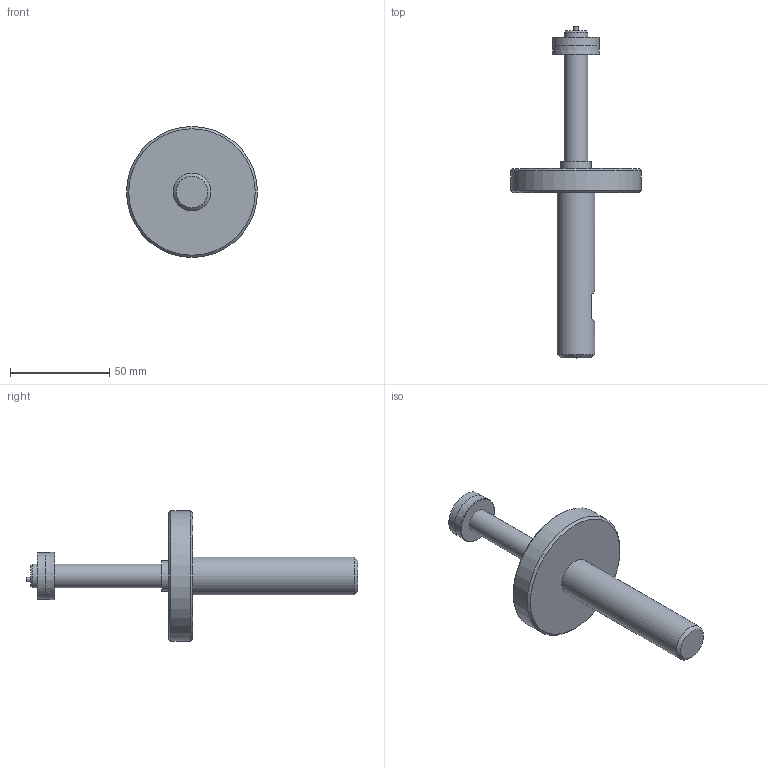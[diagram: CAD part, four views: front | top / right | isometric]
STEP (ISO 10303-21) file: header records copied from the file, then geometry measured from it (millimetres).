
FILE_DESCRIPTION (( 'STEP AP203' ), '1' );
FILE_NAME ('AF47-SIMPLE - AF47-12.00-24.00M.step', '2025-01-21T15:34:10', ( '' ), ( '' ), 'SwSTEP 2.0', 'SolidWorks 2024', '' );
FILE_SCHEMA (( 'CONFIG_CONTROL_DESIGN' ));
Length unit declared in the file: inch
Products named in the file (1): AF47-SIMPLE - AF47-12.00-24.00M
Bounding box: 66.04 x 167.39 x 66.04 mm (x, y, z)
Volume: 75861.5 mm3; surface area: 17647.4 mm2
Topology: 1 solids, 1 shells, 24 faces, 40 edges, 25 vertices
Faces by surface type: plane 11, cylinder 7, cone 5, torus 1
Full cylindrical faces by diameter (mm): 2.286 x1, 11.862 x2, 15.24 x1, 19.05 x1, 23.494 x1, 66.04 x1
Entity records: 569 total; most frequent: DIRECTION 94, CARTESIAN_POINT 81, ORIENTED_EDGE 52, AXIS2_PLACEMENT_3D 45, EDGE_LOOP 44, FACE_OUTER_BOUND 32, EDGE_CURVE 26, VERTEX_POINT 24
